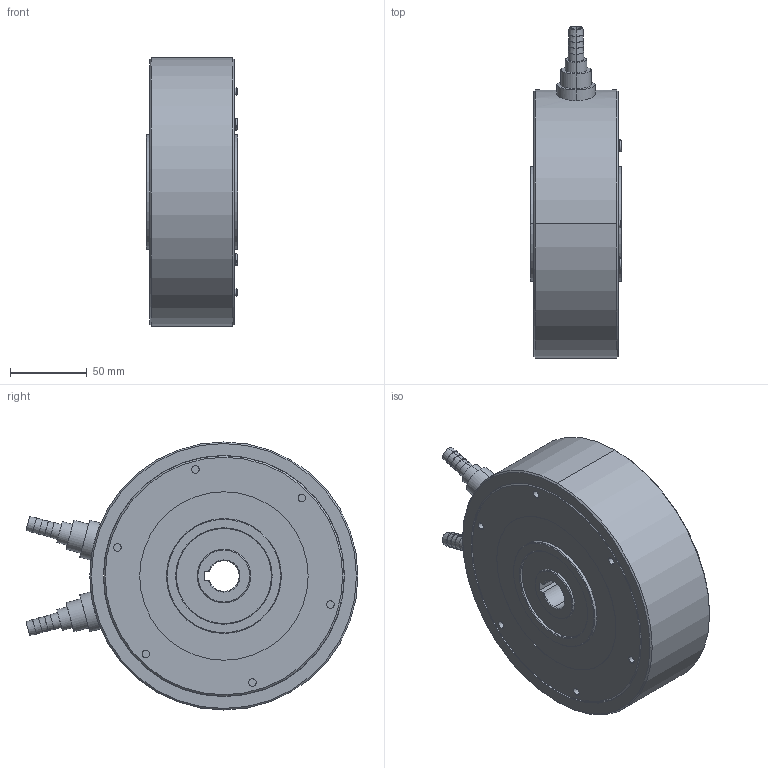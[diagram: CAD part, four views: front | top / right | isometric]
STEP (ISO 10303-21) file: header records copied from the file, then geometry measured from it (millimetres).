
FILE_DESCRIPTION (( 'STEP AP214' ), '1' );
FILE_NAME ('80 Z 0020 A 000 - FRATO 650_04-15.STEP', '2015-04-30T09:45:48', ( '' ), ( '' ), 'SwSTEP 2.0', 'SolidWorks 2011', '' );
FILE_SCHEMA (( 'AUTOMOTIVE_DESIGN' ));
Length unit declared in the file: millimetre
Products named in the file (8): 80 Z 0017 B 001  -  Grundkörper FAT 650; DIN 912  -  M6 x 40_DIN 912  -  M6 x 40; DIN EN ISO 1580  -  M4 x 10_DIN EN ISO 1580  -  M4 x 10; DIN EN ISO 1580  -  M2.5 x 10_DIN EN ISO 1580  -  M2.5 x 10; 80 Z 0020 B 001  -  K黨lk鰎per; 80 Z 0020 A 000  -  FRATO 650_04-15; DIN 125  -  A 3.2_DIN 125  -  A 3.2; 80 Z 0017 A 000  -  FAT 650
Assembly tree (16 placements, depth 3):
  80 Z 0020 A 000  -  FRATO 650_04-15
    80 Z 0017 A 000  -  FAT 650
      DIN EN ISO 1580  -  M2.5 x 10_DIN EN ISO 1580  -  M2.5 x 10  x2
      DIN 912  -  M6 x 40_DIN 912  -  M6 x 40  x6
      DIN EN ISO 1580  -  M4 x 10_DIN EN ISO 1580  -  M4 x 10  x3
      80 Z 0017 B 001  -  Grundkörper FAT 650
      DIN 125  -  A 3.2_DIN 125  -  A 3.2  x2
    80 Z 0020 B 001  -  K黨lk鰎per
Bounding box: 60 x 216.65 x 175 mm (x, y, z)
Volume: 1198420.3 mm3; surface area: 185514 mm2
Topology: 15 solids, 15 shells, 478 faces, 1054 edges, 640 vertices
Faces by surface type: plane 189, cylinder 163, cone 88, torus 38
Entity records: 9984 total; most frequent: CARTESIAN_POINT 1793, DIRECTION 1650, ORIENTED_EDGE 1308, AXIS2_PLACEMENT_3D 700, EDGE_CURVE 654, VERTEX_POINT 413, CIRCLE 382, EDGE_LOOP 367
